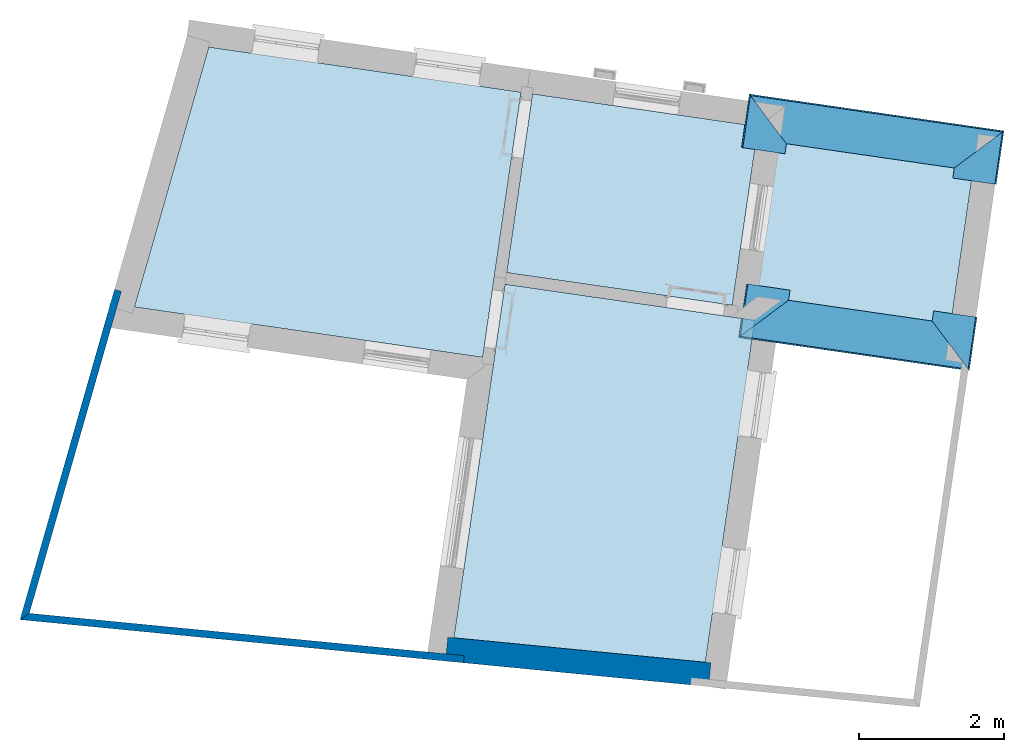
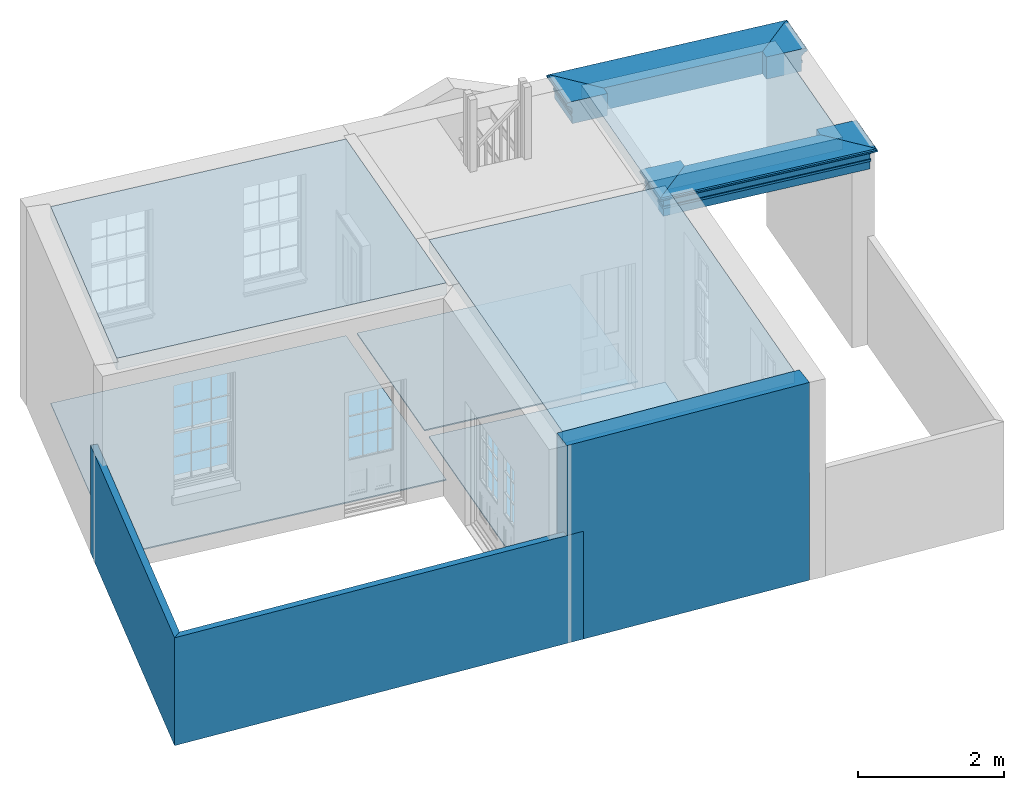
# One storey, part 1 of 7: 6 beams, 6 slabs, 3 walls.
"""IFC4 building model written with IfcOpenShell, lengths in metres."""

from ifc_helpers import new_model, si_unit, frame, origin_with_axes, place, context, subcontext, project, spatial, polyline, outline, extrude, clip, halfspace, material, layer, layer_set, layer_usage, material_profile, profile_set, profile_usage, type_object, element, save


model = new_model("IFC4")

# Units and contexts
model_context = context("Model", 3, world=origin_with_axes())
body_context = subcontext(model_context, "Body", "Model", "MODEL_VIEW")
ifc_project = project(units=[si_unit("PLANEANGLEUNIT", "RADIAN"), si_unit("MASSUNIT", "GRAM", prefix="KILO"), si_unit("FORCEUNIT", "NEWTON", prefix="KILO"), si_unit("LENGTHUNIT", "METRE"), si_unit("AREAUNIT", "SQUARE_METRE"), si_unit("VOLUMEUNIT", "CUBIC_METRE")], contexts=[model_context, model_context])

# Sites, building, storey
site_1_placement = place(None, origin_with_axes())
site_1 = spatial("IfcSite", under=ifc_project, at=site_1_placement, Name="Tamar")
site_2_placement = place(site_1_placement, origin_with_axes())
site_2 = spatial("IfcSite", under=site_1, at=site_2_placement, Name="Site plot-30", CompositionType="ELEMENT")
building_placement = place(None, origin_with_axes())
building = spatial("IfcBuilding", under=site_2, at=building_placement, Name="Building plot-30", CompositionType="ELEMENT")
storey_placement = place(None, frame((0.0, 0.0, 25.0), z_axis=(0.0, 0.0, 1.0), x_axis=(1.0, 0.0, 0.0)))
storey = spatial("IfcBuildingStorey", under=building, at=storey_placement, Name="plot-30 0", CompositionType="ELEMENT", Elevation=25.0)

# Beams
ifc_material_profile_1 = material_profile(None, outline(polyline([(-0.26, 0.0), (-0.26, -0.37), (0.26, -0.37), (0.26, -0.235), (0.275, -0.235), (0.275, -0.2), (0.26, -0.2), (0.26, -0.11), (0.275, -0.11), (0.278, -0.098), (0.284, -0.089), (0.293, -0.083), (0.305, -0.08), (0.305, -0.065), (0.315, -0.065), (0.326, -0.063), (0.336, -0.056), (0.343, -0.047), (0.345, -0.035), (0.343, -0.023), (0.336, -0.014), (0.326, -0.007), (0.315, -0.005), (0.26, 0.0), (-0.26, 0.0)])))
ifc_profile_set_1 = profile_set([ifc_material_profile_1])
ifc_profile_usage_1 = profile_usage(ifc_profile_set_1)
beam_type_1 = type_object("IfcBeamType", Name="external beam_0", PredefinedType="NOTDEFINED", material=ifc_profile_set_1)
beam_1_placement = place(storey_placement, frame((289.54111828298, 259.357483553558, 3.3), z_axis=(0.143119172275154, 0.989705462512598, 0.0), x_axis=(-0.989705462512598, 0.143119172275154, 0.0)))
element("IfcBeam", 1, at=beam_1_placement, inside=storey, type_object=beam_type_1, material=ifc_profile_usage_1, Name="external beam_0", context=body_context, shape_type="Clipping", body=[
    clip(clip(extrude(outline(polyline([(-0.26, 0.0), (-0.26, -0.37), (0.26, -0.37), (0.26, -0.235), (0.275, -0.235), (0.275, -0.2), (0.26, -0.2), (0.26, -0.11), (0.275, -0.11), (0.278, -0.098), (0.284, -0.089), (0.293, -0.083), (0.305, -0.08), (0.305, -0.065), (0.315, -0.065), (0.326, -0.063), (0.336, -0.056), (0.343, -0.047), (0.345, -0.035), (0.343, -0.023), (0.336, -0.014), (0.326, -0.007), (0.315, -0.005), (0.26, 0.0), (-0.26, 0.0)])), origin_with_axes(), (0.0, 0.0, 1.0), 2.40000000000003), halfspace(frame((0.0, 0.0, 1.40000000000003), z_axis=(-1.60484438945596e-14, 0.0, -1.0), x_axis=(0.0, 1.0, 0.0)), True)), halfspace(frame((0.0, 0.0, 1.0), z_axis=(-0.707106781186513, 0.0, -0.707106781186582), x_axis=(0.0, 1.0, 0.0)), False)),
])
ifc_profile_usage_2 = profile_usage(ifc_profile_set_1)
beam_2_placement = place(storey_placement, frame((293.167112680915, 259.843537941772, 3.3), z_axis=(-0.989705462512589, 0.143119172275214, 0.0), x_axis=(-0.143119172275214, -0.989705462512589, 0.0)))
element("IfcBeam", 2, at=beam_2_placement, inside=storey, type_object=beam_type_1, material=ifc_profile_usage_2, Name="external beam_0", context=body_context, shape_type="Clipping", body=[
    clip(clip(extrude(outline(polyline([(-0.26, 0.0), (-0.26, -0.37), (0.26, -0.37), (0.26, -0.235), (0.275, -0.235), (0.275, -0.2), (0.26, -0.2), (0.26, -0.11), (0.275, -0.11), (0.278, -0.098), (0.284, -0.089), (0.293, -0.083), (0.305, -0.08), (0.305, -0.065), (0.315, -0.065), (0.326, -0.063), (0.336, -0.056), (0.343, -0.047), (0.345, -0.035), (0.343, -0.023), (0.336, -0.014), (0.326, -0.007), (0.315, -0.005), (0.26, 0.0), (-0.26, 0.0)])), origin_with_axes(), (0.0, 0.0, 1.0), 4.51910276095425), halfspace(frame((0.0, 0.0, 3.51910276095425), z_axis=(0.707106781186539, 0.0, -0.707106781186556), x_axis=(0.0, 1.0, 0.0)), True)), halfspace(frame((0.0, 0.0, 1.0), z_axis=(-0.707106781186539, 0.0, -0.707106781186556), x_axis=(0.0, 1.0, 0.0)), False)),
])
ifc_profile_usage_3 = profile_usage(ifc_profile_set_1)
beam_3_placement = place(storey_placement, frame((292.377774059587, 261.372244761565, 3.3), z_axis=(-0.143119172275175, -0.989705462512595, 0.0), x_axis=(0.989705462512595, -0.143119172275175, 0.0)))
element("IfcBeam", 3, at=beam_3_placement, inside=storey, type_object=beam_type_1, material=ifc_profile_usage_3, Name="external beam_0", context=body_context, shape_type="Clipping", body=[
    clip(clip(extrude(outline(polyline([(-0.26, 0.0), (-0.26, -0.37), (0.26, -0.37), (0.26, -0.235), (0.275, -0.235), (0.275, -0.2), (0.26, -0.2), (0.26, -0.11), (0.275, -0.11), (0.278, -0.098), (0.284, -0.089), (0.293, -0.083), (0.305, -0.08), (0.305, -0.065), (0.315, -0.065), (0.326, -0.063), (0.336, -0.056), (0.343, -0.047), (0.345, -0.035), (0.343, -0.023), (0.336, -0.014), (0.326, -0.007), (0.315, -0.005), (0.26, 0.0), (-0.26, 0.0)])), origin_with_axes(), (0.0, 0.0, 1.0), 2.39999999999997), halfspace(frame((0.0, 0.0, 1.39999999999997), z_axis=(0.707106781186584, 0.0, -0.70710678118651), x_axis=(0.0, 1.0, 0.0)), True)), halfspace(frame((0.0, 0.0, 1.0), z_axis=(2.01448267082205e-14, 0.0, -1.0), x_axis=(0.0, 1.0, 0.0)), False)),
])
ifc_material_profile_2 = material_profile(None, outline(polyline([(-0.26, 0.0), (-0.26, -0.37), (0.26, -0.37), (0.26, -0.235), (0.275, -0.235), (0.275, -0.2), (0.26, -0.2), (0.26, -0.11), (0.275, -0.11), (0.278, -0.098), (0.284, -0.089), (0.293, -0.083), (0.305, -0.08), (0.305, -0.065), (0.315, -0.065), (0.326, -0.063), (0.336, -0.056), (0.343, -0.047), (0.345, -0.035), (0.343, -0.023), (0.336, -0.014), (0.326, -0.007), (0.315, -0.005), (0.26, 0.0), (-0.26, 0.0)])))
ifc_profile_set_2 = profile_set([ifc_material_profile_2])
ifc_profile_usage_4 = profile_usage(ifc_profile_set_2)
beam_type_2 = type_object("IfcBeamType", Name="external beam_0", PredefinedType="NOTDEFINED", material=ifc_profile_set_2)
beam_4_placement = place(storey_placement, frame((292.699705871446, 263.598485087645, 3.3), z_axis=(-0.143119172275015, -0.989705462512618, 0.0), x_axis=(0.989705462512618, -0.143119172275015, 0.0)))
element("IfcBeam", 4, at=beam_4_placement, inside=storey, type_object=beam_type_2, material=ifc_profile_usage_4, Name="external beam_0", context=body_context, shape_type="Clipping", body=[
    clip(clip(extrude(outline(polyline([(-0.26, 0.0), (-0.26, -0.37), (0.26, -0.37), (0.26, -0.235), (0.275, -0.235), (0.275, -0.2), (0.26, -0.2), (0.26, -0.11), (0.275, -0.11), (0.278, -0.098), (0.284, -0.089), (0.293, -0.083), (0.305, -0.08), (0.305, -0.065), (0.315, -0.065), (0.326, -0.063), (0.336, -0.056), (0.343, -0.047), (0.345, -0.035), (0.343, -0.023), (0.336, -0.014), (0.326, -0.007), (0.315, -0.005), (0.26, 0.0), (-0.26, 0.0)])), origin_with_axes(), (0.0, 0.0, 1.0), 2.40000000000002), halfspace(frame((0.0, 0.0, 1.40000000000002), z_axis=(4.37965975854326e-15, 0.0, -1.0), x_axis=(0.0, 1.0, 0.0)), True)), halfspace(frame((0.0, 0.0, 1.0), z_axis=(-0.707106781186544, 0.0, -0.707106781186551), x_axis=(0.0, 1.0, 0.0)), False)),
])
ifc_profile_usage_5 = profile_usage(ifc_profile_set_2)
beam_5_placement = place(storey_placement, frame((288.739827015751, 263.160713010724, 3.3), z_axis=(0.989705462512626, -0.143119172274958, 0.0), x_axis=(0.143119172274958, 0.989705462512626, 0.0)))
element("IfcBeam", 5, at=beam_5_placement, inside=storey, type_object=beam_type_2, material=ifc_profile_usage_5, Name="external beam_0", context=body_context, shape_type="Clipping", body=[
    clip(clip(extrude(outline(polyline([(-0.26, 0.0), (-0.26, -0.37), (0.26, -0.37), (0.26, -0.235), (0.275, -0.235), (0.275, -0.2), (0.26, -0.2), (0.26, -0.11), (0.275, -0.11), (0.278, -0.098), (0.284, -0.089), (0.293, -0.083), (0.305, -0.08), (0.305, -0.065), (0.315, -0.065), (0.326, -0.063), (0.336, -0.056), (0.343, -0.047), (0.345, -0.035), (0.343, -0.023), (0.336, -0.014), (0.326, -0.007), (0.315, -0.005), (0.26, 0.0), (-0.26, 0.0)])), origin_with_axes(), (0.0, 0.0, 1.0), 4.85646015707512), halfspace(frame((0.0, 0.0, 3.85646015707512), z_axis=(0.707106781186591, 0.0, -0.707106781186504), x_axis=(0.0, 1.0, 0.0)), True)), halfspace(frame((0.0, 0.0, 1.0), z_axis=(-0.707106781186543, 0.0, -0.707106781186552), x_axis=(0.0, 1.0, 0.0)), False)),
])
ifc_profile_usage_6 = profile_usage(ifc_profile_set_2)
beam_6_placement = place(storey_placement, frame((289.529165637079, 261.632006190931, 3.3), z_axis=(0.143119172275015, 0.989705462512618, 0.0), x_axis=(-0.989705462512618, 0.143119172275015, 0.0)))
element("IfcBeam", 6, at=beam_6_placement, inside=storey, type_object=beam_type_2, material=ifc_profile_usage_6, Name="external beam_0", context=body_context, shape_type="Clipping", body=[
    clip(clip(extrude(outline(polyline([(-0.26, 0.0), (-0.26, -0.37), (0.26, -0.37), (0.26, -0.235), (0.275, -0.235), (0.275, -0.2), (0.26, -0.2), (0.26, -0.11), (0.275, -0.11), (0.278, -0.098), (0.284, -0.089), (0.293, -0.083), (0.305, -0.08), (0.305, -0.065), (0.315, -0.065), (0.326, -0.063), (0.336, -0.056), (0.343, -0.047), (0.345, -0.035), (0.343, -0.023), (0.336, -0.014), (0.326, -0.007), (0.315, -0.005), (0.26, 0.0), (-0.26, 0.0)])), origin_with_axes(), (0.0, 0.0, 1.0), 2.40000000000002), halfspace(frame((0.0, 0.0, 1.40000000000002), z_axis=(0.707106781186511, 0.0, -0.707106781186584), x_axis=(0.0, 1.0, 0.0)), True)), halfspace(frame((0.0, 0.0, 1.0), z_axis=(4.37965975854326e-15, 0.0, -1.0), x_axis=(0.0, 1.0, 0.0)), False)),
])

# Slabs
slab_1_placement = place(storey_placement, frame((289.361802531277, 260.474647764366, 3.1)))
element("IfcSlab", 7, at=slab_1_placement, inside=storey, Name="My Slab", ObjectType="Slab", PredefinedType="FLOOR", context=body_context, shape_type="SweptSolid", body=[
    extrude(outline(polyline([(0.0, 0.0), (2.82705422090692, -0.408814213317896), (3.18333463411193, 2.05495542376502), (0.356280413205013, 2.46376963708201), (0.0, 0.0)])), origin_with_axes(), (0.0, 0.0, 1.0), 0.2),
])
slab_2_placement = place(storey_placement, frame((286.094767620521, 260.947086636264, 0.0)))
element("IfcSlab", 8, at=slab_2_placement, inside=storey, Name="My Slab", ObjectType="Slab", PredefinedType="FLOOR", context=body_context, shape_type="SweptSolid", body=[
    extrude(outline(polyline([(0.0, 0.0), (3.10868203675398, -0.449539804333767), (3.46496244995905, 2.01422983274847), (0.356280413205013, 2.46376963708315), (0.0, 0.0)])), origin_with_axes(), (0.0, 0.0, 1.0), 0.02),
])
slab_3_placement = place(storey_placement, frame((285.367224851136, 255.915943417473, 3.1)))
element("IfcSlab", 9, at=slab_3_placement, inside=storey, Name="My Slab", ObjectType="Slab", PredefinedType="FLOOR", context=body_context, shape_type="SweptSolid", body=[
    extrude(outline(polyline([(0.0, 0.0), (3.46581022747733, -0.337085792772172), (4.14721019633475, 4.37496822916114), (0.704643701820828, 4.87279034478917), (0.0, 0.0)])), origin_with_axes(), (0.0, 0.0, 1.0), 0.2),
])
slab_4_placement = place(storey_placement, frame((285.367224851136, 255.915943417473, 0.0)))
element("IfcSlab", 10, at=slab_4_placement, inside=storey, Name="My Slab", ObjectType="Slab", PredefinedType="FLOOR", context=body_context, shape_type="SweptSolid", body=[
    extrude(outline(polyline([(0.0, 0.0), (3.46581022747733, -0.337085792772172), (4.14721019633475, 4.37496822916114), (0.704643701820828, 4.87279034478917), (0.0, 0.0)])), origin_with_axes(), (0.0, 0.0, 1.0), 0.02),
])
slab_5_placement = place(storey_placement, frame((285.764302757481, 259.77978754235, 3.1)))
element("IfcSlab", 11, at=slab_5_placement, inside=storey, Name="My Slab", ObjectType="Slab", PredefinedType="FLOOR", context=body_context, shape_type="SweptSolid", body=[
    extrude(outline(polyline([(0.0, 0.0), (0.528392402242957, 3.6539677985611), (-3.77388996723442, 4.2761115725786), (-4.79887291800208, 0.693954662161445), (0.0, 0.0)])), origin_with_axes(), (0.0, 0.0, 1.0), 0.2),
])
slab_6_placement = place(storey_placement, frame((285.764302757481, 259.77978754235, 0.0)))
element("IfcSlab", 12, at=slab_6_placement, inside=storey, Name="My Slab", ObjectType="Slab", PredefinedType="FLOOR", context=body_context, shape_type="SweptSolid", body=[
    extrude(outline(polyline([(0.0, 0.0), (0.528392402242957, 3.6539677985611), (-3.77388996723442, 4.2761115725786), (-4.79887291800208, 0.693954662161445), (0.0, 0.0)])), origin_with_axes(), (0.0, 0.0, 1.0), 0.02),
])

# Walls
ifc_material_1 = material(Name="Masonry")
ifc_layer_1 = layer(ifc_material_1, 0.33, ventilated=False)
ifc_layer_set_1 = layer_set([ifc_layer_1], Name="party_0.08_0.25")
ifc_layer_usage_1 = layer_usage(ifc_layer_set_1, "AXIS2", "POSITIVE", -0.25)
wall_type_1 = type_object("IfcWallType", Name="party_0.08_0.25", PredefinedType="SOLIDWALL", material=ifc_layer_set_1)
wall_1_placement = place(storey_placement, frame((285.276051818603, 255.844433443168, 0.0), z_axis=(0.0, 0.0, 1.0), x_axis=(0.995303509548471, -0.0968035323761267, 0.0)))
element("IfcWall", 13, at=wall_1_placement, inside=storey, type_object=wall_type_1, material=ifc_layer_usage_1, Name="party", context=body_context, shape_type="SweptSolid", body=[
    extrude(outline(polyline([(-2.27502325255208e-14, 0.0800000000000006), (1.97160455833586e-14, -0.249999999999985), (3.64233848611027, -0.249999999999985), (3.64233848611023, 0.0800000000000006), (-2.27502325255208e-14, 0.0800000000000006)])), origin_with_axes(), (0.0, 0.0, 1.0), 3.3),
])
ifc_material_2 = material(Name="Masonry")
ifc_layer_2 = layer(ifc_material_2, 0.1, ventilated=False)
ifc_layer_set_2 = layer_set([ifc_layer_2], Name="fence_-0.15_0.25")
ifc_layer_usage_2 = layer_usage(ifc_layer_set_2, "AXIS2", "POSITIVE", -0.25)
wall_type_2 = type_object("IfcWallType", Name="fence_-0.15_0.25", PredefinedType="SOLIDWALL", material=ifc_layer_set_2)
wall_2_placement = place(storey_placement, frame((280.863315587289, 260.407676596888, 0.0), z_axis=(0.0, 0.0, 1.0), x_axis=(-0.275095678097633, -0.961416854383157, 0.0)))
element("IfcWall", 14, at=wall_2_placement, inside=storey, type_object=wall_type_2, material=ifc_layer_usage_2, Name="fence", context=body_context, shape_type="SweptSolid", body=[
    extrude(outline(polyline([(-0.24999999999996, -0.150000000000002), (-0.249999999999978, -0.249999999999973), (4.48366513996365, -0.249999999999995), (4.36361460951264, -0.149999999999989), (-0.24999999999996, -0.150000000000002)])), origin_with_axes(), (0.0, 0.0, 1.0), 1.8),
])
wall_3_placement = place(storey_placement, frame((279.712442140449, 256.3855518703, 0.0), z_axis=(0.0, 0.0, 1.0), x_axis=(0.995303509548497, -0.096803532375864, 0.0)))
element("IfcWall", 15, at=wall_3_placement, inside=storey, type_object=wall_type_2, material=ifc_layer_usage_2, Name="fence", context=body_context, shape_type="SweptSolid", body=[
    extrude(outline(polyline([(-0.180075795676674, -0.150000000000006), (-0.300126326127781, -0.249999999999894), (5.83986241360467, -0.249999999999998), (5.83986241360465, -0.149999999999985), (-0.180075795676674, -0.150000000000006)])), origin_with_axes(), (0.0, 0.0, 1.0), 1.8),
])

save(model, "model.ifc")
